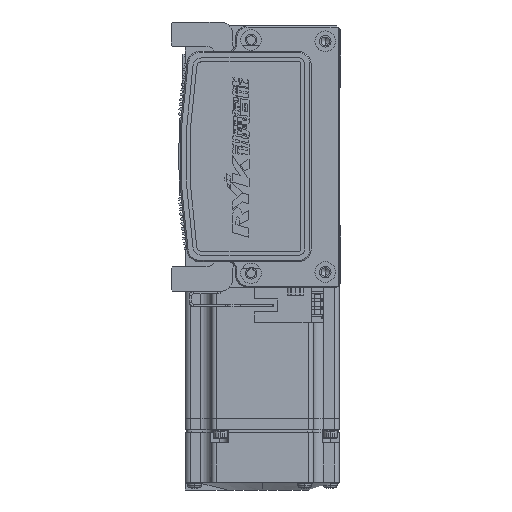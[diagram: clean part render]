
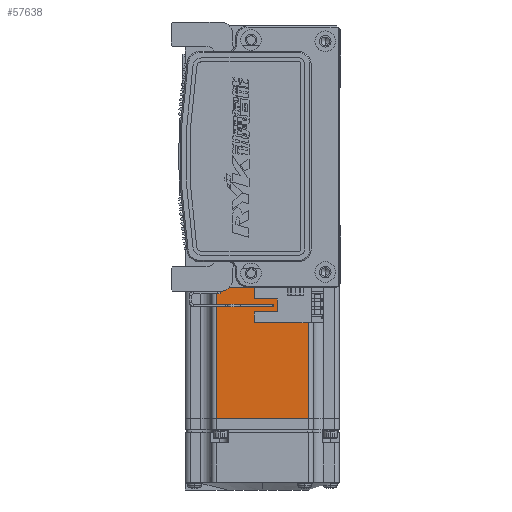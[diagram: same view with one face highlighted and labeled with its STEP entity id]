
A CAD part, left-side view. The second image highlights one B-rep face of the part: STEP entity #57638.
In plain terms, the highlighted planar face has unit normal (-1, 0, 0) as drawn and (0, 0, 1) by its records, which use the part's own axes.
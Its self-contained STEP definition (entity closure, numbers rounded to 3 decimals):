
#1695 = CARTESIAN_POINT ( 'NONE',  ( -6.5, 18., 30. ) ) ;
#2017 = ORIENTED_EDGE ( 'NONE', *, *, #54076, .F. ) ;
#4705 = VERTEX_POINT ( 'NONE', #18591 ) ;
#4719 = DIRECTION ( 'NONE',  ( 0., -1., 0. ) ) ;
#7148 = DIRECTION ( 'NONE',  ( 0., -1., 0. ) ) ;
#7370 = CARTESIAN_POINT ( 'NONE',  ( -7.75, 0., 30. ) ) ;
#8300 = CARTESIAN_POINT ( 'NONE',  ( -7.75, 18., 30. ) ) ;
#10075 = CARTESIAN_POINT ( 'NONE',  ( -70.95, 18., 30. ) ) ;
#10937 = CARTESIAN_POINT ( 'NONE',  ( -6.5, -18., 30. ) ) ;
#13646 = LINE ( 'NONE', #67911, #47883 ) ;
#15103 = VECTOR ( 'NONE', #39024, 1000. ) ;
#18250 = ORIENTED_EDGE ( 'NONE', *, *, #24647, .T. ) ;
#18474 = EDGE_LOOP ( 'NONE', ( #2017, #18250, #20321, #44462 ) ) ;
#18591 = CARTESIAN_POINT ( 'NONE',  ( -7.75, -18., 30. ) ) ;
#20321 = ORIENTED_EDGE ( 'NONE', *, *, #38552, .T. ) ;
#24647 = EDGE_CURVE ( 'NONE', #39533, #62765, #43515, .T. ) ;
#25316 = EDGE_CURVE ( 'NONE', #4705, #64138, #55942, .T. ) ;
#28763 = FACE_OUTER_BOUND ( 'NONE', #18474, .T. ) ;
#34092 = DIRECTION ( 'NONE',  ( 0., 0., 1. ) ) ;
#38552 = EDGE_CURVE ( 'NONE', #62765, #64138, #13646, .T. ) ;
#39024 = DIRECTION ( 'NONE',  ( -1., 0., 0. ) ) ;
#39533 = VERTEX_POINT ( 'NONE', #8300 ) ;
#41738 = VECTOR ( 'NONE', #54093, 1000. ) ;
#43515 = LINE ( 'NONE', #1695, #15103 ) ;
#44102 = DIRECTION ( 'NONE',  ( 1., 0., 0. ) ) ;
#44462 = ORIENTED_EDGE ( 'NONE', *, *, #25316, .F. ) ;
#47566 = VECTOR ( 'NONE', #7148, 1000. ) ;
#47883 = VECTOR ( 'NONE', #4719, 1000. ) ;
#54076 = EDGE_CURVE ( 'NONE', #39533, #4705, #54260, .T. ) ;
#54093 = DIRECTION ( 'NONE',  ( -1., 0., 0. ) ) ;
#54260 = LINE ( 'NONE', #7370, #47566 ) ;
#54374 = PLANE ( 'NONE',  #67902 ) ;
#55805 = CARTESIAN_POINT ( 'NONE',  ( -70.95, -18., 30. ) ) ;
#55942 = LINE ( 'NONE', #10937, #41738 ) ;
#57638 = ADVANCED_FACE ( 'NONE', ( #28763 ), #54374, .T. ) ;
#60653 = CARTESIAN_POINT ( 'NONE',  ( -6.5, -25., 30. ) ) ;
#62765 = VERTEX_POINT ( 'NONE', #10075 ) ;
#64138 = VERTEX_POINT ( 'NONE', #55805 ) ;
#67902 = AXIS2_PLACEMENT_3D ( 'NONE', #60653, #34092, #44102 ) ;
#67911 = CARTESIAN_POINT ( 'NONE',  ( -70.95, 0., 30. ) ) ;
